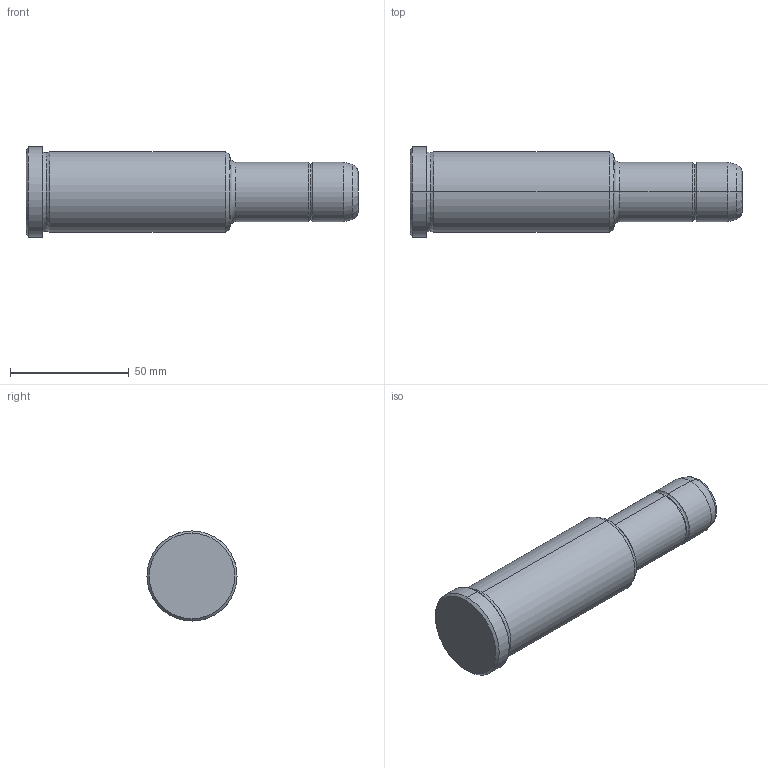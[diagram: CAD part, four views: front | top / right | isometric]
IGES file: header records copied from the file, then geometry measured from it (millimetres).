
Start section: START RECORD GO HERE.
Global section: file name: 351-25X86X140.igs; native system: DASSAULT SYSTEMES CATIA V5 R20 - www.3ds.com; preprocessor: CATIA Version 5 Release 20 ; author: Utente; organization: NB04-ASUS; date: 20210907.132719; units: millimetre
Bounding box: 140 x 38 x 38 mm (x, y, z)
Surface area: 15422.1 mm2 (no closed solid volume)
Topology: 0 solids, 0 shells, 30 faces, 172 edges, 172 vertices
Faces by surface type: revolution 26, plane 4
